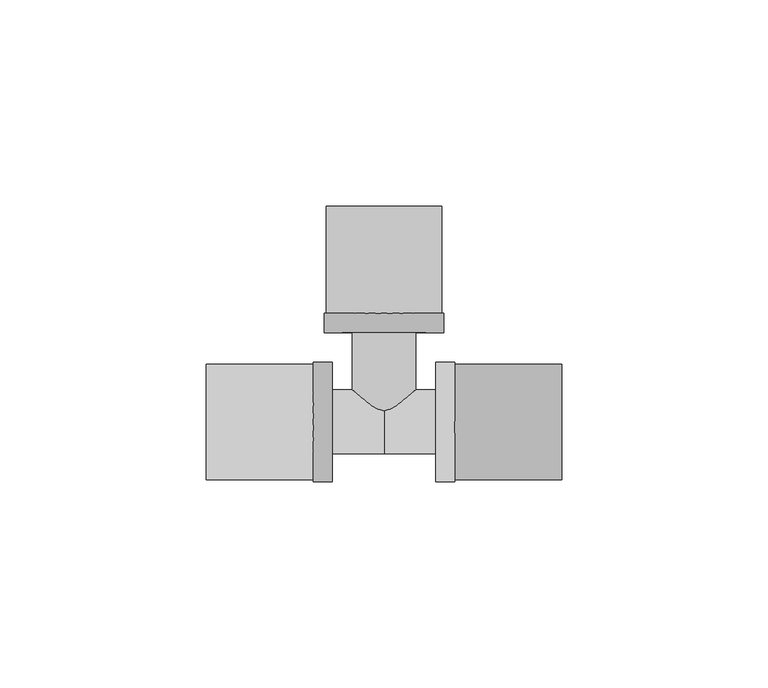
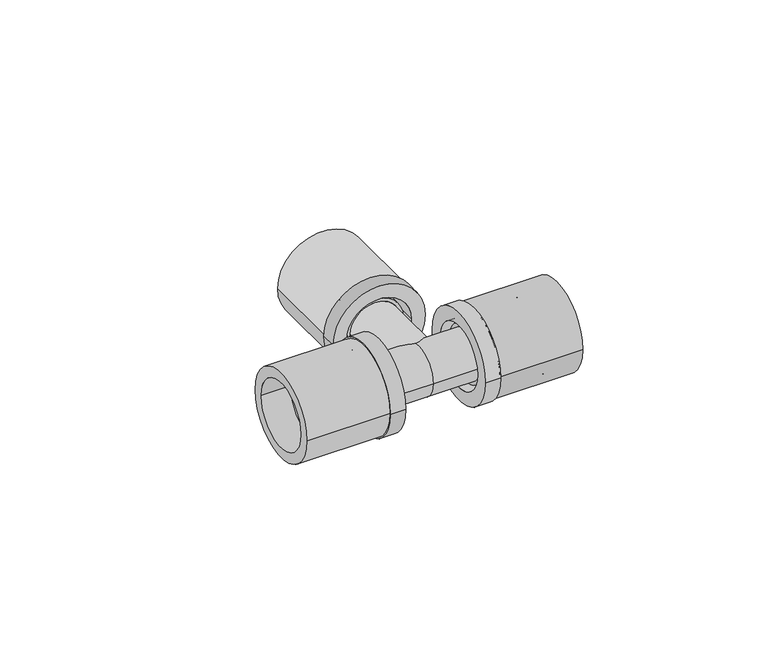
"""IFC4 building model written with IfcOpenShell, lengths in millimetres: pipe fitting geometry, FASTLOC_T-piece_EX+ : FSL T-Piece EX+ AT."""

from ifc_helpers import new_model, si_unit, point, frame, origin, origin_2d, place, context, project, spatial, polyline, circle_curve, trimmed, segment, composite_curve, outline, extrude, source, transform, mapped, element, save
from ifc_brep_helpers import plane_surface, cylinder_surface, revolved_surface, advanced_brep


def pipe_fitting_bb304fa9(model_context):
    return source(origin(), model_context, "Body", "SolidModel", [
        extrude(outline(composite_curve([segment(trimmed(circle_curve(origin_2d(), 14.0), [point((-14.0, 0.0))], [point((14.0, 0.0))], False, "CARTESIAN"), True, "CONTINUOUS"), segment(trimmed(circle_curve(origin_2d(), 14.0), [point((14.0, 0.0))], [point((-14.0, 0.0))], False, "CARTESIAN"), True, "CONTINUOUS")], self_intersect=False), holes=[composite_curve([segment(trimmed(circle_curve(origin_2d(), 10.7), [point((-10.7, 0.0))], [point((10.7, 0.0))], True, "CARTESIAN"), True, "CONTINUOUS"), segment(trimmed(circle_curve(origin_2d(), 10.7), [point((10.7, 0.0))], [point((-10.7, 0.0))], True, "CARTESIAN"), True, "CONTINUOUS")], self_intersect=False)]), frame((17.2, 0.0, 0.0), z_axis=(1.0, 0.0, 0.0), x_axis=(0.0, 1.0, 0.0)), (0.0, 0.0, 1.0), 26.0),
        advanced_brep(
        [(17.2, 14.5, 0.0), (17.2, -14.5, 0.0), (12.5, -14.5, 0.0), (12.5, 14.5, 0.0), (34.2, 11.85, 0.0), (34.2, -11.85, 0.0), (17.2, -11.85, 0.0), (17.2, 11.85, 0.0), (12.5, 10.15, 0.0), (12.5, -10.15, 0.0), (34.2, -10.15, 0.0), (34.2, 10.15, 0.0)],
        [
            (0, 1, circle_curve(frame((17.2, 0.0, 0.0), z_axis=(-1.0, 0.0, 0.0), x_axis=(0.0, -1.0, 0.0)), 14.5)),
            (1, 2),
            (2, 3, circle_curve(frame((12.5, 0.0, 0.0), z_axis=(1.0, 0.0, 0.0), x_axis=(0.0, -1.0, 0.0)), 14.5)),
            (3, 0),
            (4, 5, circle_curve(frame((34.2, 0.0, 0.0), z_axis=(-1.0, 0.0, 0.0), x_axis=(0.0, -1.0, 0.0)), 11.85)),
            (5, 6),
            (6, 7, circle_curve(frame((17.2, 0.0, 0.0), z_axis=(1.0, 0.0, 0.0), x_axis=(0.0, -1.0, 0.0)), 11.85)),
            (7, 4),
            (8, 9, circle_curve(frame((12.5, 0.0, 0.0), z_axis=(-1.0, 0.0, 0.0), x_axis=(0.0, -1.0, 0.0)), 10.15)),
            (9, 10),
            (10, 11, circle_curve(frame((34.2, 0.0, 0.0), z_axis=(1.0, 0.0, 0.0), x_axis=(0.0, -1.0, 0.0)), 10.15)),
            (11, 8),
            (1, 0, circle_curve(frame((17.2, 0.0, 0.0), z_axis=(-1.0, 0.0, 0.0), x_axis=(0.0, 1.0, 0.0)), 14.5)),
            (3, 2, circle_curve(frame((12.5, 0.0, 0.0), z_axis=(1.0, 0.0, 0.0), x_axis=(0.0, 1.0, 0.0)), 14.5)),
            (6, 7, circle_curve(frame((17.2, 0.0, 0.0), z_axis=(-1.0, 0.0, 0.0), x_axis=(0.0, 1.0, 0.0)), 11.85)),
            (5, 4, circle_curve(frame((34.2, 0.0, 0.0), z_axis=(-1.0, 0.0, 0.0), x_axis=(0.0, 1.0, 0.0)), 11.85)),
            (10, 11, circle_curve(frame((34.2, 0.0, 0.0), z_axis=(-1.0, 0.0, 0.0), x_axis=(0.0, 1.0, 0.0)), 10.15)),
            (9, 8, circle_curve(frame((12.5, 0.0, 0.0), z_axis=(-1.0, 0.0, 0.0), x_axis=(0.0, 1.0, 0.0)), 10.15)),
        ],
        [
            cylinder_surface(frame((12.5, 0.0, 0.0), z_axis=(1.0, 0.0, 0.0), x_axis=(0.0, -1.0, 0.0)), 14.5),
            cylinder_surface(frame((12.5, 0.0, 0.0), z_axis=(1.0, 0.0, 0.0), x_axis=(0.0, -1.0, 0.0)), 11.85),
            revolved_surface(polyline([(34.2, -10.15, 0.0), (12.5, -10.15, 0.0)]), (12.5, 0.0, 0.0), (1.0, 0.0, 0.0)),
            cylinder_surface(frame((12.5, 0.0, 0.0), z_axis=(1.0, 0.0, 0.0), x_axis=(0.0, 1.0, 0.0)), 14.5),
            plane_surface(frame((17.2, 0.0, 0.0), z_axis=(1.0, 0.0, 0.0), x_axis=(0.0, 1.0, 0.0))),
            cylinder_surface(frame((12.5, 0.0, 0.0), z_axis=(1.0, 0.0, 0.0), x_axis=(0.0, 1.0, 0.0)), 11.85),
            plane_surface(frame((34.2, 0.0, 0.0), z_axis=(1.0, 0.0, 0.0), x_axis=(0.0, 1.0, 0.0))),
            revolved_surface(polyline([(34.2, 10.15, 0.0), (12.5, 10.15, 0.0)]), (12.5, 0.0, 0.0), (1.0, 0.0, 0.0)),
            plane_surface(frame((12.5, 0.0, 0.0), z_axis=(-1.0, 0.0, 0.0), x_axis=(0.0, 1.0, 0.0))),
        ],
        [
            (0, [[1, 2, 3, 4]]),
            (1, [[5, 6, 7, 8]]),
            (2, [[9, 10, 11, 12]]),
            (3, [[13, -4, 14, -2]]),
            (4, [[-13, -1], [15, -7]]),
            (5, [[16, -8, -15, -6]]),
            (6, [[-16, -5], [17, -11]]),
            (7, [[18, -12, -17, -10]]),
            (8, [[-14, -3], [-18, -9]]),
        ],
    ),
        extrude(outline(composite_curve([segment(trimmed(circle_curve(origin_2d(), 14.0), [point((14.0, 0.0))], [point((-14.0, 0.0))], False, "CARTESIAN"), True, "CONTINUOUS"), segment(trimmed(circle_curve(origin_2d(), 14.0), [point((-14.0, 0.0))], [point((14.0, 0.0))], False, "CARTESIAN"), True, "CONTINUOUS")], self_intersect=False), holes=[composite_curve([segment(trimmed(circle_curve(origin_2d(), 10.7), [point((10.7, 0.0))], [point((-10.7, 0.0))], True, "CARTESIAN"), True, "CONTINUOUS"), segment(trimmed(circle_curve(origin_2d(), 10.7), [point((-10.7, 0.0))], [point((10.7, 0.0))], True, "CARTESIAN"), True, "CONTINUOUS")], self_intersect=False)]), frame((-43.2, 0.0, 0.0), z_axis=(1.0, 0.0, 0.0), x_axis=(0.0, 1.0, 0.0)), (0.0, 0.0, 1.0), 26.0),
        advanced_brep(
        [(-17.2, -14.5, 0.0), (-17.2, 14.5, 0.0), (-12.5, 14.5, 0.0), (-12.5, -14.5, 0.0), (-34.2, -11.85, 0.0), (-34.2, 11.85, 0.0), (-17.2, 11.85, 0.0), (-17.2, -11.85, 0.0), (-12.5, -10.15, 0.0), (-12.5, 10.15, 0.0), (-34.2, 10.15, 0.0), (-34.2, -10.15, 0.0)],
        [
            (0, 1, circle_curve(frame((-17.2, 0.0, 0.0), z_axis=(1.0, 0.0, 0.0), x_axis=(0.0, 1.0, 0.0)), 14.5)),
            (1, 2),
            (2, 3, circle_curve(frame((-12.5, 0.0, 0.0), z_axis=(-1.0, 0.0, 0.0), x_axis=(0.0, 1.0, 0.0)), 14.5)),
            (3, 0),
            (4, 5, circle_curve(frame((-34.2, 0.0, 0.0), z_axis=(1.0, 0.0, 0.0), x_axis=(0.0, 1.0, 0.0)), 11.85)),
            (5, 6),
            (6, 7, circle_curve(frame((-17.2, 0.0, 0.0), z_axis=(-1.0, 0.0, 0.0), x_axis=(0.0, 1.0, 0.0)), 11.85)),
            (7, 4),
            (8, 9, circle_curve(frame((-12.5, 0.0, 0.0), z_axis=(1.0, 0.0, 0.0), x_axis=(0.0, 1.0, 0.0)), 10.15)),
            (9, 10),
            (10, 11, circle_curve(frame((-34.2, 0.0, 0.0), z_axis=(-1.0, 0.0, 0.0), x_axis=(0.0, 1.0, 0.0)), 10.15)),
            (11, 8),
            (1, 0, circle_curve(frame((-17.2, 0.0, 0.0), z_axis=(1.0, 0.0, 0.0), x_axis=(0.0, -1.0, 0.0)), 14.5)),
            (3, 2, circle_curve(frame((-12.5, 0.0, 0.0), z_axis=(-1.0, 0.0, 0.0), x_axis=(0.0, -1.0, 0.0)), 14.5)),
            (6, 7, circle_curve(frame((-17.2, 0.0, 0.0), z_axis=(1.0, 0.0, 0.0), x_axis=(0.0, -1.0, 0.0)), 11.85)),
            (5, 4, circle_curve(frame((-34.2, 0.0, 0.0), z_axis=(1.0, 0.0, 0.0), x_axis=(0.0, -1.0, 0.0)), 11.85)),
            (10, 11, circle_curve(frame((-34.2, 0.0, 0.0), z_axis=(1.0, 0.0, 0.0), x_axis=(0.0, -1.0, 0.0)), 10.15)),
            (9, 8, circle_curve(frame((-12.5, 0.0, 0.0), z_axis=(1.0, 0.0, 0.0), x_axis=(0.0, -1.0, 0.0)), 10.15)),
        ],
        [
            cylinder_surface(frame((-12.5, 0.0, 0.0), z_axis=(-1.0, 0.0, 0.0), x_axis=(0.0, 1.0, 0.0)), 14.5),
            cylinder_surface(frame((-12.5, 0.0, 0.0), z_axis=(-1.0, 0.0, 0.0), x_axis=(0.0, 1.0, 0.0)), 11.85),
            revolved_surface(polyline([(-34.2, 10.15, 0.0), (-12.5, 10.15, 0.0)]), (-12.5, 0.0, 0.0), (-1.0, 0.0, 0.0)),
            cylinder_surface(frame((-12.5, 0.0, 0.0), z_axis=(-1.0, 0.0, 0.0), x_axis=(0.0, -1.0, 0.0)), 14.5),
            plane_surface(frame((-17.2, 0.0, 0.0), z_axis=(-1.0, 0.0, 0.0), x_axis=(0.0, -1.0, 0.0))),
            cylinder_surface(frame((-12.5, 0.0, 0.0), z_axis=(-1.0, 0.0, 0.0), x_axis=(0.0, -1.0, 0.0)), 11.85),
            plane_surface(frame((-34.2, 0.0, 0.0), z_axis=(-1.0, 0.0, 0.0), x_axis=(0.0, -1.0, 0.0))),
            revolved_surface(polyline([(-34.2, -10.15, 0.0), (-12.5, -10.15, 0.0)]), (-12.5, 0.0, 0.0), (-1.0, 0.0, 0.0)),
            plane_surface(frame((-12.5, 0.0, 0.0), z_axis=(1.0, 0.0, 0.0), x_axis=(0.0, -1.0, 0.0))),
        ],
        [
            (0, [[1, 2, 3, 4]]),
            (1, [[5, 6, 7, 8]]),
            (2, [[9, 10, 11, 12]]),
            (3, [[13, -4, 14, -2]]),
            (4, [[-13, -1], [15, -7]]),
            (5, [[16, -8, -15, -6]]),
            (6, [[-16, -5], [17, -11]]),
            (7, [[18, -12, -17, -10]]),
            (8, [[-14, -3], [-18, -9]]),
        ],
    ),
        extrude(outline(composite_curve([segment(trimmed(circle_curve(origin_2d(), 14.0), [point((0.0, 14.0))], [point((0.0, -14.0))], False, "CARTESIAN"), True, "CONTINUOUS"), segment(trimmed(circle_curve(origin_2d(), 14.0), [point((0.0, -14.0))], [point((0.0, 14.0))], False, "CARTESIAN"), True, "CONTINUOUS")], self_intersect=False), holes=[composite_curve([segment(trimmed(circle_curve(origin_2d(), 10.7), [point((0.0, 10.7))], [point((0.0, -10.7))], True, "CARTESIAN"), True, "CONTINUOUS"), segment(trimmed(circle_curve(origin_2d(), 10.7), [point((0.0, -10.7))], [point((0.0, 10.7))], True, "CARTESIAN"), True, "CONTINUOUS")], self_intersect=False)]), frame((0.0, 26.4, 0.0), z_axis=(0.0, 1.0, 0.0), x_axis=(0.0, 0.0, 1.0)), (0.0, 0.0, 1.0), 26.0),
        advanced_brep(
        [(-14.5, 26.4, 0.0), (14.5, 26.4, 0.0), (14.5, 21.7, 0.0), (-14.5, 21.7, 0.0), (-11.85, 43.4, 0.0), (11.85, 43.4, 0.0), (11.85, 26.4, 0.0), (-11.85, 26.4, 0.0), (-10.15, 21.7, 0.0), (10.15, 21.7, 0.0), (10.15, 43.4, 0.0), (-10.15, 43.4, 0.0)],
        [
            (0, 1, circle_curve(frame((0.0, 26.4, 0.0), z_axis=(0.0, -1.0, 0.0), x_axis=(1.0, 0.0, 0.0)), 14.5)),
            (1, 2),
            (2, 3, circle_curve(frame((0.0, 21.7, 0.0), z_axis=(0.0, 1.0, 0.0), x_axis=(1.0, 0.0, 0.0)), 14.5)),
            (3, 0),
            (4, 5, circle_curve(frame((0.0, 43.4, 0.0), z_axis=(0.0, -1.0, 0.0), x_axis=(1.0, 0.0, 0.0)), 11.85)),
            (5, 6),
            (6, 7, circle_curve(frame((0.0, 26.4, 0.0), z_axis=(0.0, 1.0, 0.0), x_axis=(1.0, 0.0, 0.0)), 11.85)),
            (7, 4),
            (8, 9, circle_curve(frame((0.0, 21.7, 0.0), z_axis=(0.0, -1.0, 0.0), x_axis=(1.0, 0.0, 0.0)), 10.15)),
            (9, 10),
            (10, 11, circle_curve(frame((0.0, 43.4, 0.0), z_axis=(0.0, 1.0, 0.0), x_axis=(1.0, 0.0, 0.0)), 10.15)),
            (11, 8),
            (1, 0, circle_curve(frame((0.0, 26.4, 0.0), z_axis=(0.0, -1.0, 0.0), x_axis=(-1.0, 0.0, 0.0)), 14.5)),
            (3, 2, circle_curve(frame((0.0, 21.7, 0.0), z_axis=(0.0, 1.0, 0.0), x_axis=(-1.0, 0.0, 0.0)), 14.5)),
            (6, 7, circle_curve(frame((0.0, 26.4, 0.0), z_axis=(0.0, -1.0, 0.0), x_axis=(-1.0, 0.0, 0.0)), 11.85)),
            (5, 4, circle_curve(frame((0.0, 43.4, 0.0), z_axis=(0.0, -1.0, 0.0), x_axis=(-1.0, 0.0, 0.0)), 11.85)),
            (10, 11, circle_curve(frame((0.0, 43.4, 0.0), z_axis=(0.0, -1.0, 0.0), x_axis=(-1.0, 0.0, 0.0)), 10.15)),
            (9, 8, circle_curve(frame((0.0, 21.7, 0.0), z_axis=(0.0, -1.0, 0.0), x_axis=(-1.0, 0.0, 0.0)), 10.15)),
        ],
        [
            cylinder_surface(frame((0.0, 21.7, 0.0), z_axis=(0.0, 1.0, 0.0), x_axis=(1.0, 0.0, 0.0)), 14.5),
            cylinder_surface(frame((0.0, 21.7, 0.0), z_axis=(0.0, 1.0, 0.0), x_axis=(1.0, 0.0, 0.0)), 11.85),
            revolved_surface(polyline([(10.15, 43.4, 0.0), (10.15, 21.7, 0.0)]), (0.0, 21.7, 0.0), (0.0, 1.0, 0.0)),
            cylinder_surface(frame((0.0, 21.7, 0.0), z_axis=(0.0, 1.0, 0.0), x_axis=(-1.0, 0.0, 0.0)), 14.5),
            plane_surface(frame((0.0, 26.4, 0.0), z_axis=(0.0, 1.0, 0.0), x_axis=(-1.0, 0.0, 0.0))),
            cylinder_surface(frame((0.0, 21.7, 0.0), z_axis=(0.0, 1.0, 0.0), x_axis=(-1.0, 0.0, 0.0)), 11.85),
            plane_surface(frame((0.0, 43.4, 0.0), z_axis=(0.0, 1.0, 0.0), x_axis=(-1.0, 0.0, 0.0))),
            revolved_surface(polyline([(-10.15, 43.4, 0.0), (-10.15, 21.7, 0.0)]), (0.0, 21.7, 0.0), (0.0, 1.0, 0.0)),
            plane_surface(frame((0.0, 21.7, 0.0), z_axis=(0.0, -1.0, 0.0), x_axis=(-1.0, 0.0, 0.0))),
        ],
        [
            (0, [[1, 2, 3, 4]]),
            (1, [[5, 6, 7, 8]]),
            (2, [[9, 10, 11, 12]]),
            (3, [[13, -4, 14, -2]]),
            (4, [[-13, -1], [15, -7]]),
            (5, [[16, -8, -15, -6]]),
            (6, [[-16, -5], [17, -11]]),
            (7, [[18, -12, -17, -10]]),
            (8, [[-14, -3], [-18, -9]]),
        ],
    ),
        advanced_brep(
        [(0.0, 7.75, 0.0), (0.0, -7.75, 0.0), (-14.53, -7.75, 0.0), (-14.53, 7.75, 0.0), (14.53, 7.75, 0.0), (14.53, -7.75, 0.0), (17.2, 8.8, 0.0), (17.2, -8.8, 0.0), (14.53, -8.8, 0.0), (14.53, 8.8, 0.0), (34.6, 7.75, 0.0), (34.6, -7.75, 0.0), (17.2, -7.75, 0.0), (17.2, 7.75, 0.0), (-34.6, 5.75, 0.0), (-34.6, -5.75, 0.0), (34.6, -5.75, 0.0), (34.6, 5.75, 0.0), (-17.2, 7.75, 0.0), (-17.2, -7.75, 0.0), (-34.6, -7.75, 0.0), (-34.6, 7.75, 0.0), (-14.53, 8.8, 0.0), (-14.53, -8.8, 0.0), (-17.2, -8.8, 0.0), (-17.2, 8.8, 0.0)],
        [
            (0, 1, circle_curve(frame((0.0, 0.0, 0.0), z_axis=(-1.0, 0.0, 0.0), x_axis=(0.0, -1.0, 0.0)), 7.75)),
            (1, 2),
            (2, 3, circle_curve(frame((-14.53, 0.0, 0.0), z_axis=(1.0, 0.0, 0.0), x_axis=(0.0, -1.0, 0.0)), 7.75)),
            (3, 0),
            (4, 5, circle_curve(frame((14.53, 0.0, 0.0), z_axis=(-1.0, 0.0, 0.0), x_axis=(0.0, -1.0, 0.0)), 7.75)),
            (5, 1),
            (0, 4),
            (6, 7, circle_curve(frame((17.2, 0.0, 0.0), z_axis=(-1.0, 0.0, 0.0), x_axis=(0.0, -1.0, 0.0)), 8.8)),
            (7, 8),
            (8, 9, circle_curve(frame((14.53, 0.0, 0.0), z_axis=(1.0, 0.0, 0.0), x_axis=(0.0, -1.0, 0.0)), 8.8)),
            (9, 6),
            (10, 11, circle_curve(frame((34.6, 0.0, 0.0), z_axis=(-1.0, 0.0, 0.0), x_axis=(0.0, -1.0, 0.0)), 7.75)),
            (11, 12),
            (12, 13, circle_curve(frame((17.2, 0.0, 0.0), z_axis=(1.0, 0.0, 0.0), x_axis=(0.0, -1.0, 0.0)), 7.75)),
            (13, 10),
            (14, 15, circle_curve(frame((-34.6, 0.0, 0.0), z_axis=(-1.0, 0.0, 0.0), x_axis=(0.0, -1.0, 0.0)), 5.75)),
            (15, 16),
            (16, 17, circle_curve(frame((34.6, 0.0, 0.0), z_axis=(1.0, 0.0, 0.0), x_axis=(0.0, -1.0, 0.0)), 5.75)),
            (17, 14),
            (18, 19, circle_curve(frame((-17.2, 0.0, 0.0), z_axis=(-1.0, 0.0, 0.0), x_axis=(0.0, -1.0, 0.0)), 7.75)),
            (19, 20),
            (20, 21, circle_curve(frame((-34.6, 0.0, 0.0), z_axis=(1.0, 0.0, 0.0), x_axis=(0.0, -1.0, 0.0)), 7.75)),
            (21, 18),
            (22, 23, circle_curve(frame((-14.53, 0.0, 0.0), z_axis=(-1.0, 0.0, 0.0), x_axis=(0.0, -1.0, 0.0)), 8.8)),
            (23, 24),
            (24, 25, circle_curve(frame((-17.2, 0.0, 0.0), z_axis=(1.0, 0.0, 0.0), x_axis=(0.0, -1.0, 0.0)), 8.8)),
            (25, 22),
            (22, 23, circle_curve(frame((-14.53, 0.0, 0.0), z_axis=(1.0, 0.0, 0.0), x_axis=(0.0, 1.0, 0.0)), 8.8)),
            (2, 3, circle_curve(frame((-14.53, 0.0, 0.0), z_axis=(-1.0, 0.0, 0.0), x_axis=(0.0, 1.0, 0.0)), 7.75)),
            (1, 0, circle_curve(frame((0.0, 0.0, 0.0), z_axis=(-1.0, 0.0, 0.0), x_axis=(0.0, 1.0, 0.0)), 7.75)),
            (5, 4, circle_curve(frame((14.53, 0.0, 0.0), z_axis=(-1.0, 0.0, 0.0), x_axis=(0.0, 1.0, 0.0)), 7.75)),
            (8, 9, circle_curve(frame((14.53, 0.0, 0.0), z_axis=(-1.0, 0.0, 0.0), x_axis=(0.0, 1.0, 0.0)), 8.8)),
            (7, 6, circle_curve(frame((17.2, 0.0, 0.0), z_axis=(-1.0, 0.0, 0.0), x_axis=(0.0, 1.0, 0.0)), 8.8)),
            (12, 13, circle_curve(frame((17.2, 0.0, 0.0), z_axis=(-1.0, 0.0, 0.0), x_axis=(0.0, 1.0, 0.0)), 7.75)),
            (11, 10, circle_curve(frame((34.6, 0.0, 0.0), z_axis=(-1.0, 0.0, 0.0), x_axis=(0.0, 1.0, 0.0)), 7.75)),
            (16, 17, circle_curve(frame((34.6, 0.0, 0.0), z_axis=(-1.0, 0.0, 0.0), x_axis=(0.0, 1.0, 0.0)), 5.75)),
            (15, 14, circle_curve(frame((-34.6, 0.0, 0.0), z_axis=(-1.0, 0.0, 0.0), x_axis=(0.0, 1.0, 0.0)), 5.75)),
            (20, 21, circle_curve(frame((-34.6, 0.0, 0.0), z_axis=(-1.0, 0.0, 0.0), x_axis=(0.0, 1.0, 0.0)), 7.75)),
            (19, 18, circle_curve(frame((-17.2, 0.0, 0.0), z_axis=(-1.0, 0.0, 0.0), x_axis=(0.0, 1.0, 0.0)), 7.75)),
            (24, 25, circle_curve(frame((-17.2, 0.0, 0.0), z_axis=(-1.0, 0.0, 0.0), x_axis=(0.0, 1.0, 0.0)), 8.8)),
        ],
        [
            cylinder_surface(frame((0.0, 0.0, 0.0), z_axis=(1.0, 0.0, 0.0), x_axis=(0.0, -1.0, 0.0)), 7.75),
            cylinder_surface(frame((0.0, 0.0, 0.0), z_axis=(1.0, 0.0, 0.0), x_axis=(0.0, -1.0, 0.0)), 8.8),
            revolved_surface(polyline([(34.6, -5.75, 0.0), (-34.6, -5.75, 0.0)]), (0.0, 0.0, 0.0), (1.0, 0.0, 0.0)),
            plane_surface(frame((-14.53, 0.0, 0.0), z_axis=(1.0, 0.0, 0.0), x_axis=(0.0, 1.0, 0.0))),
            cylinder_surface(frame((0.0, 0.0, 0.0), z_axis=(1.0, 0.0, 0.0), x_axis=(0.0, 1.0, 0.0)), 7.75),
            plane_surface(frame((14.53, 0.0, 0.0), z_axis=(-1.0, 0.0, 0.0), x_axis=(0.0, 1.0, 0.0))),
            cylinder_surface(frame((0.0, 0.0, 0.0), z_axis=(1.0, 0.0, 0.0), x_axis=(0.0, 1.0, 0.0)), 8.8),
            plane_surface(frame((17.2, 0.0, 0.0), z_axis=(1.0, 0.0, 0.0), x_axis=(0.0, 1.0, 0.0))),
            plane_surface(frame((34.6, 0.0, 0.0), z_axis=(1.0, 0.0, 0.0), x_axis=(0.0, 1.0, 0.0))),
            revolved_surface(polyline([(34.6, 5.75, 0.0), (-34.6, 5.75, 0.0)]), (0.0, 0.0, 0.0), (1.0, 0.0, 0.0)),
            plane_surface(frame((-34.6, 0.0, 0.0), z_axis=(-1.0, 0.0, 0.0), x_axis=(0.0, 1.0, 0.0))),
            plane_surface(frame((-17.2, 0.0, 0.0), z_axis=(-1.0, 0.0, 0.0), x_axis=(0.0, 1.0, 0.0))),
        ],
        [
            (0, [[1, 2, 3, 4]]),
            (0, [[5, 6, -1, 7]]),
            (1, [[8, 9, 10, 11]]),
            (0, [[12, 13, 14, 15]]),
            (2, [[16, 17, 18, 19]]),
            (0, [[20, 21, 22, 23]]),
            (1, [[24, 25, 26, 27]]),
            (3, [[28, -24], [29, -3]]),
            (4, [[30, -4, -29, -2]]),
            (4, [[31, -7, -30, -6]]),
            (5, [[32, -10], [-31, -5]]),
            (6, [[33, -11, -32, -9]]),
            (7, [[-33, -8], [34, -14]]),
            (4, [[35, -15, -34, -13]]),
            (8, [[-35, -12], [36, -18]]),
            (9, [[37, -19, -36, -17]]),
            (10, [[38, -22], [-37, -16]]),
            (4, [[39, -23, -38, -21]]),
            (11, [[40, -26], [-39, -20]]),
            (6, [[-28, -27, -40, -25]]),
        ],
    ),
        advanced_brep(
        [(5.75, 43.8, 0.0), (-5.75, 43.8, 0.0), (-5.75, 0.0, 0.0), (5.75, 0.0, 0.0), (7.75, 0.0, 0.0), (-7.75, 0.0, 0.0), (-7.75, 23.73, 0.0), (7.75, 23.73, 0.0), (8.8, 23.73, 0.0), (-8.8, 23.73, 0.0), (-8.8, 26.4, 0.0), (8.8, 26.4, 0.0), (7.75, 26.4, 0.0), (-7.75, 26.4, 0.0), (-7.75, 43.8, 0.0), (7.75, 43.8, 0.0)],
        [
            (0, 1, circle_curve(frame((0.0, 43.8, 0.0), z_axis=(0.0, 1.0, 0.0), x_axis=(-1.0, 0.0, 0.0)), 5.75)),
            (1, 2),
            (2, 3, circle_curve(frame((0.0, 0.0, 0.0), z_axis=(0.0, -1.0, 0.0), x_axis=(-1.0, 0.0, 0.0)), 5.75)),
            (3, 0),
            (4, 5, circle_curve(frame((0.0, 0.0, 0.0), z_axis=(0.0, 1.0, 0.0), x_axis=(-1.0, 0.0, 0.0)), 7.75)),
            (5, 6),
            (6, 7, circle_curve(frame((0.0, 23.73, 0.0), z_axis=(0.0, -1.0, 0.0), x_axis=(-1.0, 0.0, 0.0)), 7.75)),
            (7, 4),
            (8, 9, circle_curve(frame((0.0, 23.73, 0.0), z_axis=(0.0, 1.0, 0.0), x_axis=(-1.0, 0.0, 0.0)), 8.8)),
            (9, 10),
            (10, 11, circle_curve(frame((0.0, 26.4, 0.0), z_axis=(0.0, -1.0, 0.0), x_axis=(-1.0, 0.0, 0.0)), 8.8)),
            (11, 8),
            (12, 13, circle_curve(frame((0.0, 26.4, 0.0), z_axis=(0.0, 1.0, 0.0), x_axis=(-1.0, 0.0, 0.0)), 7.75)),
            (13, 14),
            (14, 15, circle_curve(frame((0.0, 43.8, 0.0), z_axis=(0.0, -1.0, 0.0), x_axis=(-1.0, 0.0, 0.0)), 7.75)),
            (15, 12),
            (1, 0, circle_curve(frame((0.0, 43.8, 0.0), z_axis=(0.0, 1.0, 0.0), x_axis=(1.0, 0.0, 0.0)), 5.75)),
            (3, 2, circle_curve(frame((0.0, 0.0, 0.0), z_axis=(0.0, -1.0, 0.0), x_axis=(1.0, 0.0, 0.0)), 5.75)),
            (4, 5, circle_curve(frame((0.0, 0.0, 0.0), z_axis=(0.0, -1.0, 0.0), x_axis=(1.0, 0.0, 0.0)), 7.75)),
            (7, 6, circle_curve(frame((0.0, 23.73, 0.0), z_axis=(0.0, -1.0, 0.0), x_axis=(1.0, 0.0, 0.0)), 7.75)),
            (8, 9, circle_curve(frame((0.0, 23.73, 0.0), z_axis=(0.0, -1.0, 0.0), x_axis=(1.0, 0.0, 0.0)), 8.8)),
            (11, 10, circle_curve(frame((0.0, 26.4, 0.0), z_axis=(0.0, -1.0, 0.0), x_axis=(1.0, 0.0, 0.0)), 8.8)),
            (12, 13, circle_curve(frame((0.0, 26.4, 0.0), z_axis=(0.0, -1.0, 0.0), x_axis=(1.0, 0.0, 0.0)), 7.75)),
            (15, 14, circle_curve(frame((0.0, 43.8, 0.0), z_axis=(0.0, -1.0, 0.0), x_axis=(1.0, 0.0, 0.0)), 7.75)),
        ],
        [
            revolved_surface(polyline([(-5.75, 0.0, 0.0), (-5.75, 43.8, 0.0)]), (0.0, 0.0, 0.0), (0.0, -1.0, 0.0)),
            cylinder_surface(frame((0.0, 0.0, 0.0), z_axis=(0.0, -1.0, 0.0), x_axis=(-1.0, 0.0, 0.0)), 7.75),
            cylinder_surface(frame((0.0, 0.0, 0.0), z_axis=(0.0, -1.0, 0.0), x_axis=(-1.0, 0.0, 0.0)), 8.8),
            revolved_surface(polyline([(5.75, 0.0, 0.0), (5.75, 43.8, 0.0)]), (0.0, 0.0, 0.0), (0.0, -1.0, 0.0)),
            plane_surface(frame((0.0, 0.0, 0.0), z_axis=(0.0, -1.0, 0.0), x_axis=(1.0, 0.0, 0.0))),
            cylinder_surface(frame((0.0, 0.0, 0.0), z_axis=(0.0, -1.0, 0.0), x_axis=(1.0, 0.0, 0.0)), 7.75),
            plane_surface(frame((0.0, 23.73, 0.0), z_axis=(0.0, -1.0, 0.0), x_axis=(1.0, 0.0, 0.0))),
            cylinder_surface(frame((0.0, 0.0, 0.0), z_axis=(0.0, -1.0, 0.0), x_axis=(1.0, 0.0, 0.0)), 8.8),
            plane_surface(frame((0.0, 26.4, 0.0), z_axis=(0.0, 1.0, 0.0), x_axis=(1.0, 0.0, 0.0))),
            plane_surface(frame((0.0, 43.8, 0.0), z_axis=(0.0, 1.0, 0.0), x_axis=(1.0, 0.0, 0.0))),
        ],
        [
            (0, [[1, 2, 3, 4]]),
            (1, [[5, 6, 7, 8]]),
            (2, [[9, 10, 11, 12]]),
            (1, [[13, 14, 15, 16]]),
            (3, [[17, -4, 18, -2]]),
            (4, [[19, -5], [-18, -3]]),
            (5, [[-19, -8, 20, -6]]),
            (6, [[21, -9], [-20, -7]]),
            (7, [[-21, -12, 22, -10]]),
            (8, [[-22, -11], [23, -13]]),
            (5, [[-23, -16, 24, -14]]),
            (9, [[-24, -15], [-17, -1]]),
        ],
    ),
    ])


if __name__ == "__main__":
    model = new_model("IFC4")
    model_context = context("Model", 3, world=origin())
    ifc_project = project(units=[si_unit("LENGTHUNIT", "METRE", prefix="MILLI")], contexts=[model_context])
    site = spatial("IfcSite", under=ifc_project)
    building = spatial("IfcBuilding", under=site)
    placement = place(None, origin())
    pipe_fitting_shape = pipe_fitting_bb304fa9(model_context)
    element("IfcPipeFitting", 1, ObjectType="FASTLOC_T-piece_EX+ : FSL T-Piece EX+ AT", at=placement, inside=building, context=model_context, shape_type="MappedRepresentation", body=[
        mapped(pipe_fitting_shape, transform((0.0, 0.0, 0.0), x_axis=(1.0, 0.0, 0.0), y_axis=(0.0, 1.0, 0.0), z_axis=(0.0, 0.0, 1.0))),
    ])
    save(model, "model.ifc")
